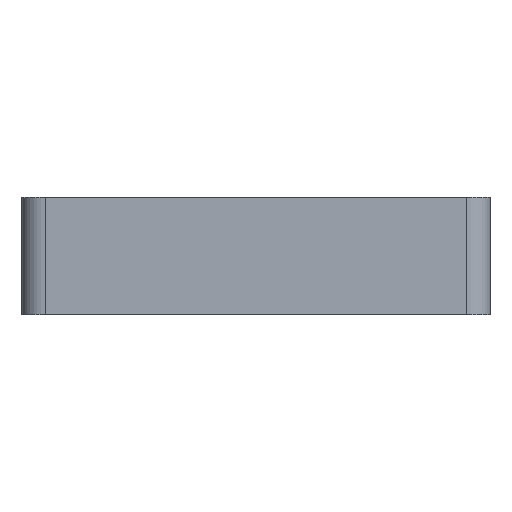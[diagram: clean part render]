
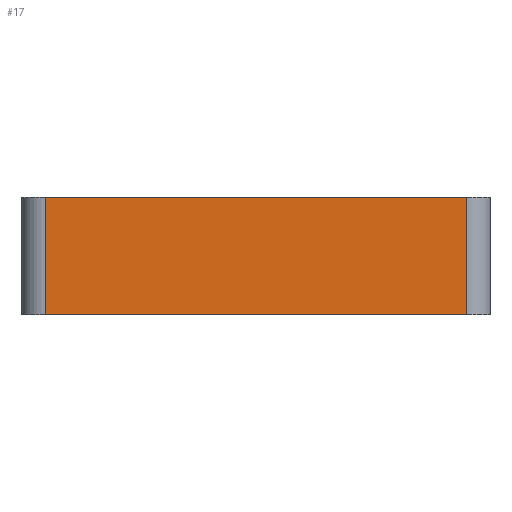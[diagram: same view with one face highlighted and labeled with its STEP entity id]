
A CAD part, left-side view. The second image highlights one B-rep face of the part: STEP entity #17.
In plain terms, the highlighted planar face has unit normal (-1, 0, 0).
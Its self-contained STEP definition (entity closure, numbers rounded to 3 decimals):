
#17 = ADVANCED_FACE('',(#18),#32,.F.);
#18 = FACE_BOUND('',#19,.F.);
#19 = EDGE_LOOP('',(#20,#55,#83,#111));
#20 = ORIENTED_EDGE('',*,*,#21,.F.);
#21 = EDGE_CURVE('',#22,#24,#26,.T.);
#22 = VERTEX_POINT('',#23);
#23 = CARTESIAN_POINT('',(-14.,-10.8,6.));
#24 = VERTEX_POINT('',#25);
#25 = CARTESIAN_POINT('',(-14.,10.8,6.));
#26 = SURFACE_CURVE('',#27,(#31,#43),.PCURVE_S1.);
#27 = LINE('',#28,#29);
#28 = CARTESIAN_POINT('',(-14.,-12.,6.));
#29 = VECTOR('',#30,1.);
#30 = DIRECTION('',(0.,1.,0.));
#31 = PCURVE('',#32,#37);
#32 = PLANE('',#33);
#33 = AXIS2_PLACEMENT_3D('',#34,#35,#36);
#34 = CARTESIAN_POINT('',(-14.,-12.,0.));
#35 = DIRECTION('',(1.,0.,0.));
#36 = DIRECTION('',(0.,0.,1.));
#37 = DEFINITIONAL_REPRESENTATION('',(#38),#42);
#38 = LINE('',#39,#40);
#39 = CARTESIAN_POINT('',(6.,0.));
#40 = VECTOR('',#41,1.);
#41 = DIRECTION('',(0.,-1.));
#42 = ( GEOMETRIC_REPRESENTATION_CONTEXT(2) 
PARAMETRIC_REPRESENTATION_CONTEXT() REPRESENTATION_CONTEXT('2D SPACE',''
  ) );
#43 = PCURVE('',#44,#49);
#44 = PLANE('',#45);
#45 = AXIS2_PLACEMENT_3D('',#46,#47,#48);
#46 = CARTESIAN_POINT('',(-14.,-12.,6.));
#47 = DIRECTION('',(0.,0.,1.));
#48 = DIRECTION('',(1.,0.,0.));
#49 = DEFINITIONAL_REPRESENTATION('',(#50),#54);
#50 = LINE('',#51,#52);
#51 = CARTESIAN_POINT('',(0.,0.));
#52 = VECTOR('',#53,1.);
#53 = DIRECTION('',(0.,1.));
#54 = ( GEOMETRIC_REPRESENTATION_CONTEXT(2) 
PARAMETRIC_REPRESENTATION_CONTEXT() REPRESENTATION_CONTEXT('2D SPACE',''
  ) );
#55 = ORIENTED_EDGE('',*,*,#56,.F.);
#56 = EDGE_CURVE('',#57,#22,#59,.T.);
#57 = VERTEX_POINT('',#58);
#58 = CARTESIAN_POINT('',(-14.,-10.8,0.));
#59 = SURFACE_CURVE('',#60,(#64,#71),.PCURVE_S1.);
#60 = LINE('',#61,#62);
#61 = CARTESIAN_POINT('',(-14.,-10.8,0.));
#62 = VECTOR('',#63,1.);
#63 = DIRECTION('',(0.,0.,1.));
#64 = PCURVE('',#32,#65);
#65 = DEFINITIONAL_REPRESENTATION('',(#66),#70);
#66 = LINE('',#67,#68);
#67 = CARTESIAN_POINT('',(0.,-1.2));
#68 = VECTOR('',#69,1.);
#69 = DIRECTION('',(1.,0.));
#70 = ( GEOMETRIC_REPRESENTATION_CONTEXT(2) 
PARAMETRIC_REPRESENTATION_CONTEXT() REPRESENTATION_CONTEXT('2D SPACE',''
  ) );
#71 = PCURVE('',#72,#77);
#72 = CYLINDRICAL_SURFACE('',#73,1.2);
#73 = AXIS2_PLACEMENT_3D('',#74,#75,#76);
#74 = CARTESIAN_POINT('',(-12.8,-10.8,0.));
#75 = DIRECTION('',(0.,0.,1.));
#76 = DIRECTION('',(-1.,-0.,0.));
#77 = DEFINITIONAL_REPRESENTATION('',(#78),#82);
#78 = LINE('',#79,#80);
#79 = CARTESIAN_POINT('',(0.,0.));
#80 = VECTOR('',#81,1.);
#81 = DIRECTION('',(0.,1.));
#82 = ( GEOMETRIC_REPRESENTATION_CONTEXT(2) 
PARAMETRIC_REPRESENTATION_CONTEXT() REPRESENTATION_CONTEXT('2D SPACE',''
  ) );
#83 = ORIENTED_EDGE('',*,*,#84,.T.);
#84 = EDGE_CURVE('',#57,#85,#87,.T.);
#85 = VERTEX_POINT('',#86);
#86 = CARTESIAN_POINT('',(-14.,10.8,0.));
#87 = SURFACE_CURVE('',#88,(#92,#99),.PCURVE_S1.);
#88 = LINE('',#89,#90);
#89 = CARTESIAN_POINT('',(-14.,-12.,0.));
#90 = VECTOR('',#91,1.);
#91 = DIRECTION('',(0.,1.,0.));
#92 = PCURVE('',#32,#93);
#93 = DEFINITIONAL_REPRESENTATION('',(#94),#98);
#94 = LINE('',#95,#96);
#95 = CARTESIAN_POINT('',(0.,0.));
#96 = VECTOR('',#97,1.);
#97 = DIRECTION('',(0.,-1.));
#98 = ( GEOMETRIC_REPRESENTATION_CONTEXT(2) 
PARAMETRIC_REPRESENTATION_CONTEXT() REPRESENTATION_CONTEXT('2D SPACE',''
  ) );
#99 = PCURVE('',#100,#105);
#100 = PLANE('',#101);
#101 = AXIS2_PLACEMENT_3D('',#102,#103,#104);
#102 = CARTESIAN_POINT('',(-14.,-12.,0.));
#103 = DIRECTION('',(0.,0.,1.));
#104 = DIRECTION('',(1.,0.,0.));
#105 = DEFINITIONAL_REPRESENTATION('',(#106),#110);
#106 = LINE('',#107,#108);
#107 = CARTESIAN_POINT('',(0.,0.));
#108 = VECTOR('',#109,1.);
#109 = DIRECTION('',(0.,1.));
#110 = ( GEOMETRIC_REPRESENTATION_CONTEXT(2) 
PARAMETRIC_REPRESENTATION_CONTEXT() REPRESENTATION_CONTEXT('2D SPACE',''
  ) );
#111 = ORIENTED_EDGE('',*,*,#112,.T.);
#112 = EDGE_CURVE('',#85,#24,#113,.T.);
#113 = SURFACE_CURVE('',#114,(#118,#125),.PCURVE_S1.);
#114 = LINE('',#115,#116);
#115 = CARTESIAN_POINT('',(-14.,10.8,0.));
#116 = VECTOR('',#117,1.);
#117 = DIRECTION('',(0.,0.,1.));
#118 = PCURVE('',#32,#119);
#119 = DEFINITIONAL_REPRESENTATION('',(#120),#124);
#120 = LINE('',#121,#122);
#121 = CARTESIAN_POINT('',(0.,-22.8));
#122 = VECTOR('',#123,1.);
#123 = DIRECTION('',(1.,0.));
#124 = ( GEOMETRIC_REPRESENTATION_CONTEXT(2) 
PARAMETRIC_REPRESENTATION_CONTEXT() REPRESENTATION_CONTEXT('2D SPACE',''
  ) );
#125 = PCURVE('',#126,#131);
#126 = CYLINDRICAL_SURFACE('',#127,1.2);
#127 = AXIS2_PLACEMENT_3D('',#128,#129,#130);
#128 = CARTESIAN_POINT('',(-12.8,10.8,0.));
#129 = DIRECTION('',(0.,0.,1.));
#130 = DIRECTION('',(-1.,-0.,0.));
#131 = DEFINITIONAL_REPRESENTATION('',(#132),#136);
#132 = LINE('',#133,#134);
#133 = CARTESIAN_POINT('',(-0.,0.));
#134 = VECTOR('',#135,1.);
#135 = DIRECTION('',(-0.,1.));
#136 = ( GEOMETRIC_REPRESENTATION_CONTEXT(2) 
PARAMETRIC_REPRESENTATION_CONTEXT() REPRESENTATION_CONTEXT('2D SPACE',''
  ) );
